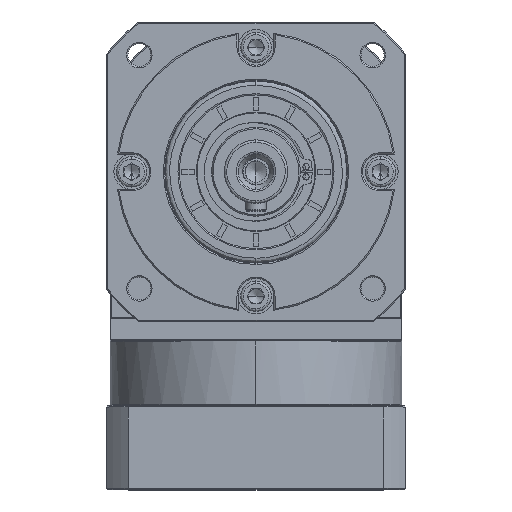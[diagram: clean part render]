
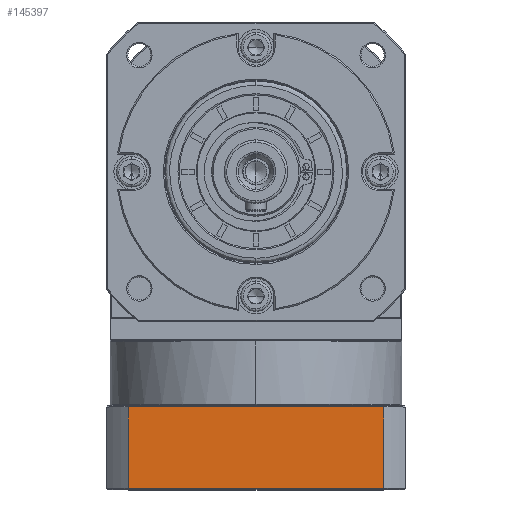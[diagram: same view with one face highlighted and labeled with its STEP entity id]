
A CAD part, top view. The second image highlights one B-rep face of the part: STEP entity #145397.
In plain terms, the highlighted planar face has unit normal (0, 0, 1).
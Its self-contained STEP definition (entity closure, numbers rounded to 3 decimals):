
#3433 = VERTEX_POINT ( 'NONE', #26809 ) ;
#9512 = EDGE_CURVE ( 'NONE', #140018, #91487, #29851, .T. ) ;
#23440 = FACE_OUTER_BOUND ( 'NONE', #67077, .T. ) ;
#25610 = CARTESIAN_POINT ( 'NONE',  ( 125.068, -6.71, 141.751 ) ) ;
#26809 = CARTESIAN_POINT ( 'NONE',  ( 225.571, -38.71, 141.751 ) ) ;
#27831 = CARTESIAN_POINT ( 'NONE',  ( 125.068, -39.21, 141.751 ) ) ;
#28891 = VERTEX_POINT ( 'NONE', #100362 ) ;
#29851 = LINE ( 'NONE', #27831, #150923 ) ;
#31419 = AXIS2_PLACEMENT_3D ( 'NONE', #142192, #155358, #130736 ) ;
#34959 = VECTOR ( 'NONE', #122898, 1000. ) ;
#39976 = EDGE_CURVE ( 'NONE', #91487, #28891, #86416, .T. ) ;
#44236 = LINE ( 'NONE', #122074, #114103 ) ;
#44578 = EDGE_CURVE ( 'NONE', #3433, #140018, #135520, .T. ) ;
#45144 = ORIENTED_EDGE ( 'NONE', *, *, #44578, .F. ) ;
#46192 = DIRECTION ( 'NONE',  ( -1., 0., 0. ) ) ;
#47344 = CARTESIAN_POINT ( 'NONE',  ( 116.32, -38.71, 141.751 ) ) ;
#67077 = EDGE_LOOP ( 'NONE', ( #142958, #150837, #89439, #45144 ) ) ;
#70377 = DIRECTION ( 'NONE',  ( 0., -1., 0. ) ) ;
#86410 = CARTESIAN_POINT ( 'NONE',  ( 125.068, -38.71, 141.751 ) ) ;
#86416 = LINE ( 'NONE', #136054, #34959 ) ;
#89439 = ORIENTED_EDGE ( 'NONE', *, *, #9512, .F. ) ;
#91487 = VERTEX_POINT ( 'NONE', #25610 ) ;
#100362 = CARTESIAN_POINT ( 'NONE',  ( 225.571, -6.71, 141.751 ) ) ;
#104797 = VECTOR ( 'NONE', #46192, 1000. ) ;
#114103 = VECTOR ( 'NONE', #70377, 1000. ) ;
#122074 = CARTESIAN_POINT ( 'NONE',  ( 225.571, 215.185, 141.751 ) ) ;
#122898 = DIRECTION ( 'NONE',  ( 1., 0., 0. ) ) ;
#126266 = PLANE ( 'NONE',  #31419 ) ;
#130423 = EDGE_CURVE ( 'NONE', #28891, #3433, #44236, .T. ) ;
#130736 = DIRECTION ( 'NONE',  ( -1., 0., 0. ) ) ;
#135520 = LINE ( 'NONE', #47344, #104797 ) ;
#136054 = CARTESIAN_POINT ( 'NONE',  ( 116.32, -6.71, 141.751 ) ) ;
#140018 = VERTEX_POINT ( 'NONE', #86410 ) ;
#142192 = CARTESIAN_POINT ( 'NONE',  ( 116.32, -39.21, 141.751 ) ) ;
#142958 = ORIENTED_EDGE ( 'NONE', *, *, #130423, .F. ) ;
#145397 = ADVANCED_FACE ( 'NONE', ( #23440 ), #126266, .F. ) ;
#150837 = ORIENTED_EDGE ( 'NONE', *, *, #39976, .F. ) ;
#150923 = VECTOR ( 'NONE', #159138, 1000. ) ;
#155358 = DIRECTION ( 'NONE',  ( 0., 0., -1. ) ) ;
#159138 = DIRECTION ( 'NONE',  ( 0., 1., 0. ) ) ;
